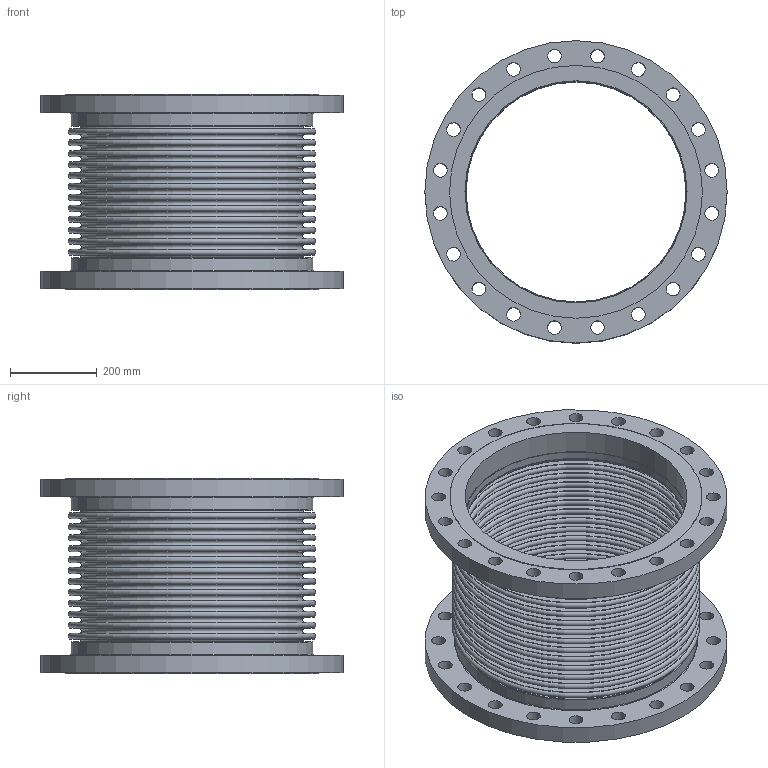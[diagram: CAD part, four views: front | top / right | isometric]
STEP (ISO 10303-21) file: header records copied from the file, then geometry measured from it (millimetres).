
FILE_DESCRIPTION(/* description */ ('EXPANSION JOINT,SINGLE, FLANGED ENDS,20 INCH','CAx-IF Rec.Pracs.---Representation and Presentation of Product Manufacturing Information (PMI)---4.0---2014-10-13'),/* implementation_level */ '2;1');
FILE_NAME(/* name */ 'US-20-12-85L-FLANGED ENDS.stp',/* time_stamp */ '2026-07-31T17:41:20-05:00',/* author */ ('Guadalupe'),/* organization */ (''),/* preprocessor_version */ 'ST-DEVELOPER v20.1',/* originating_system */ 'Autodesk Inventor 2026',/* authorisation */ '');
FILE_SCHEMA (('AP242_MANAGED_MODEL_BASED_3D_ENGINEERING_MIM_LF { 1 0 10303 442 2 1 4 }'));
Length unit declared in the file: inch
Products named in the file (3): 20-85L; 20-85L-02; 20-85L-01
Assembly tree (3 placements, depth 2):
  20-85L
    20-85L-02  x2
    20-85L-01
Bounding box: 698.5 x 698.5 x 450.6 mm (x, y, z)
Volume: 17679648.6 mm3; surface area: 4537921.7 mm2
Topology: 5 solids, 5 shells, 168 faces, 318 edges, 212 vertices
Faces by surface type: plane 62, torus 54, cylinder 52
Full cylindrical faces by diameter (mm): 31.75 x40, 508 x2, 510.438 x2, 513.08 x2, 558.8 x2, 584.2 x2, 698.5 x2
Entity records: 3762 total; most frequent: DIRECTION 766, CARTESIAN_POINT 561, ORIENTED_EDGE 480, AXIS2_PLACEMENT_3D 369, EDGE_CURVE 240, EDGE_LOOP 236, CIRCLE 212, VERTEX_POINT 160
